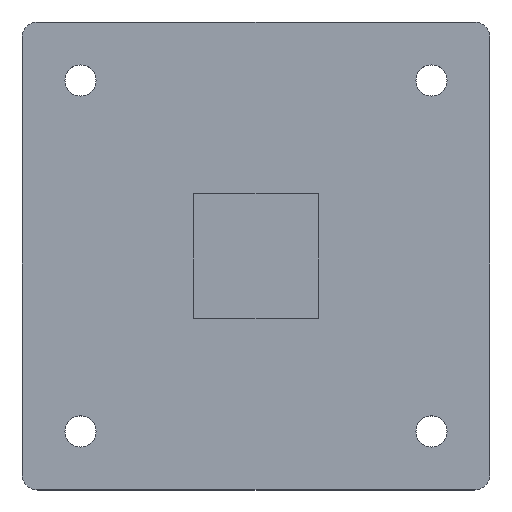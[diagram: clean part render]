
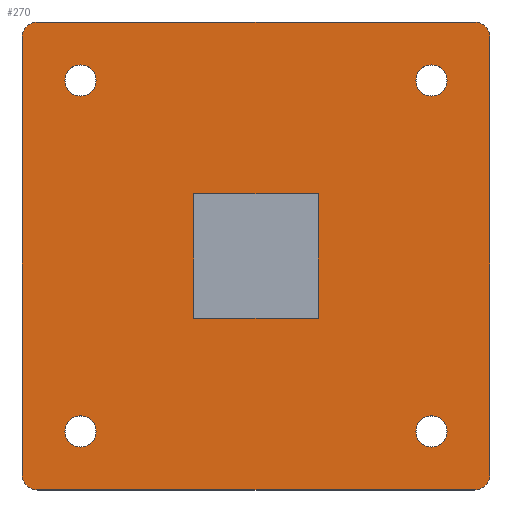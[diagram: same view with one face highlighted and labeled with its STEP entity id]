
A CAD part, top view. The second image highlights one B-rep face of the part: STEP entity #270.
In plain terms, the highlighted planar face has unit normal (0, 0, 1).
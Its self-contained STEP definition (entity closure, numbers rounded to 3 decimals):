
#200 = VERTEX_POINT( '', #568 );
#208 = VERTEX_POINT( '', #576 );
#212 = VERTEX_POINT( '', #580 );
#224 = EDGE_CURVE( '', #262, #386, #593, .T. );
#256 = EDGE_CURVE( '', #296, #262, #628, .T. );
#262 = VERTEX_POINT( '', #636 );
#270 = ADVANCED_FACE( '', ( #646, #647, #648, #649, #650, #651 ), #652, .T. );
#272 = EDGE_CURVE( '', #302, #296, #654, .T. );
#282 = EDGE_CURVE( '', #498, #208, #665, .T. );
#286 = EDGE_CURVE( '', #326, #302, #669, .T. );
#288 = VERTEX_POINT( '', #671 );
#296 = VERTEX_POINT( '', #680 );
#302 = VERTEX_POINT( '', #687 );
#308 = EDGE_CURVE( '', #338, #326, #694, .T. );
#314 = EDGE_CURVE( '', #288, #470, #700, .T. );
#326 = VERTEX_POINT( '', #713 );
#338 = VERTEX_POINT( '', #728 );
#340 = EDGE_CURVE( '', #366, #338, #730, .T. );
#354 = VERTEX_POINT( '', #745 );
#360 = EDGE_CURVE( '', #382, #366, #752, .T. );
#366 = VERTEX_POINT( '', #758 );
#376 = EDGE_CURVE( '', #386, #382, #768, .T. );
#382 = VERTEX_POINT( '', #775 );
#386 = VERTEX_POINT( '', #781 );
#394 = EDGE_CURVE( '', #500, #212, #791, .T. );
#396 = EDGE_CURVE( '', #470, #288, #793, .T. );
#414 = EDGE_CURVE( '', #208, #498, #818, .T. );
#416 = EDGE_CURVE( '', #530, #354, #820, .T. );
#418 = EDGE_CURVE( '', #354, #530, #822, .T. );
#430 = VERTEX_POINT( '', #835 );
#432 = EDGE_CURVE( '', #454, #430, #837, .T. );
#448 = EDGE_CURVE( '', #502, #454, #854, .T. );
#454 = VERTEX_POINT( '', #861 );
#470 = VERTEX_POINT( '', #879 );
#496 = EDGE_CURVE( '', #212, #500, #908, .T. );
#498 = VERTEX_POINT( '', #910 );
#500 = VERTEX_POINT( '', #912 );
#502 = VERTEX_POINT( '', #914 );
#504 = EDGE_CURVE( '', #200, #502, #916, .T. );
#530 = VERTEX_POINT( '', #945 );
#544 = EDGE_CURVE( '', #430, #200, #959, .T. );
#568 = CARTESIAN_POINT( '', ( -8., -8., 0. ) );
#576 = CARTESIAN_POINT( '', ( -20.5, 22.5, 0. ) );
#580 = CARTESIAN_POINT( '', ( 20.5, -22.5, 0. ) );
#593 = CIRCLE( '', #1009, 2. );
#628 = LINE( '', #1056, #1057 );
#636 = CARTESIAN_POINT( '', ( -28., -30., 0. ) );
#646 = FACE_BOUND( '', #1077, .T. );
#647 = FACE_OUTER_BOUND( '', #1078, .T. );
#648 = FACE_BOUND( '', #1079, .T. );
#649 = FACE_BOUND( '', #1080, .T. );
#650 = FACE_BOUND( '', #1081, .T. );
#651 = FACE_BOUND( '', #1082, .T. );
#652 = PLANE( '', #1083 );
#654 = CIRCLE( '', #1086, 2. );
#665 = CIRCLE( '', #1100, 2. );
#669 = LINE( '', #1107, #1108 );
#671 = CARTESIAN_POINT( '', ( 20.5, 22.5, 0. ) );
#680 = CARTESIAN_POINT( '', ( 28., -30., 0. ) );
#687 = CARTESIAN_POINT( '', ( 30., -28., 0. ) );
#694 = CIRCLE( '', #1140, 2. );
#700 = CIRCLE( '', #1147, 2. );
#713 = CARTESIAN_POINT( '', ( 30., 28., 0. ) );
#728 = CARTESIAN_POINT( '', ( 28., 30., 0. ) );
#730 = LINE( '', #1182, #1183 );
#745 = CARTESIAN_POINT( '', ( -24.5, -22.5, 0. ) );
#752 = CIRCLE( '', #1211, 2. );
#758 = CARTESIAN_POINT( '', ( -28., 30., 0. ) );
#768 = LINE( '', #1236, #1237 );
#775 = CARTESIAN_POINT( '', ( -30., 28., 0. ) );
#781 = CARTESIAN_POINT( '', ( -30., -28., 0. ) );
#791 = CIRCLE( '', #1263, 2. );
#793 = CIRCLE( '', #1266, 2. );
#818 = CIRCLE( '', #1293, 2. );
#820 = CIRCLE( '', #1296, 2. );
#822 = CIRCLE( '', #1299, 2. );
#835 = CARTESIAN_POINT( '', ( 8., -8., 0. ) );
#837 = LINE( '', #1319, #1320 );
#854 = LINE( '', #1344, #1345 );
#861 = CARTESIAN_POINT( '', ( 8., 8., 0. ) );
#879 = CARTESIAN_POINT( '', ( 24.5, 22.5, 0. ) );
#908 = CIRCLE( '', #1415, 2. );
#910 = CARTESIAN_POINT( '', ( -24.5, 22.5, 0. ) );
#912 = CARTESIAN_POINT( '', ( 24.5, -22.5, 0. ) );
#914 = CARTESIAN_POINT( '', ( -8., 8., 0. ) );
#916 = LINE( '', #1424, #1425 );
#945 = CARTESIAN_POINT( '', ( -20.5, -22.5, 0. ) );
#959 = LINE( '', #1488, #1489 );
#1009 = AXIS2_PLACEMENT_3D( '', #1521, #1522, #1523 );
#1056 = CARTESIAN_POINT( '', ( -28., -30., 0. ) );
#1057 = VECTOR( '', #1568, 1. );
#1077 = EDGE_LOOP( '', ( #1601, #1602, #1603, #1604 ) );
#1078 = EDGE_LOOP( '', ( #1605, #1606, #1607, #1608, #1609, #1610, #1611, #1612 ) );
#1079 = EDGE_LOOP( '', ( #1613, #1614 ) );
#1080 = EDGE_LOOP( '', ( #1615, #1616 ) );
#1081 = EDGE_LOOP( '', ( #1617, #1618 ) );
#1082 = EDGE_LOOP( '', ( #1619, #1620 ) );
#1083 = AXIS2_PLACEMENT_3D( '', #1621, #1622, #1623 );
#1086 = AXIS2_PLACEMENT_3D( '', #1624, #1625, #1626 );
#1100 = AXIS2_PLACEMENT_3D( '', #1641, #1642, #1643 );
#1107 = CARTESIAN_POINT( '', ( 30., -28., 0. ) );
#1108 = VECTOR( '', #1645, 1. );
#1140 = AXIS2_PLACEMENT_3D( '', #1673, #1674, #1675 );
#1147 = AXIS2_PLACEMENT_3D( '', #1676, #1677, #1678 );
#1182 = CARTESIAN_POINT( '', ( 28., 30., 0. ) );
#1183 = VECTOR( '', #1718, 1. );
#1211 = AXIS2_PLACEMENT_3D( '', #1740, #1741, #1742 );
#1236 = CARTESIAN_POINT( '', ( -30., 28., 0. ) );
#1237 = VECTOR( '', #1752, 1. );
#1263 = AXIS2_PLACEMENT_3D( '', #1788, #1789, #1790 );
#1266 = AXIS2_PLACEMENT_3D( '', #1791, #1792, #1793 );
#1293 = AXIS2_PLACEMENT_3D( '', #1827, #1828, #1829 );
#1296 = AXIS2_PLACEMENT_3D( '', #1830, #1831, #1832 );
#1299 = AXIS2_PLACEMENT_3D( '', #1833, #1834, #1835 );
#1319 = CARTESIAN_POINT( '', ( 8., 4., 0. ) );
#1320 = VECTOR( '', #1846, 1. );
#1344 = CARTESIAN_POINT( '', ( -4., 8., 0. ) );
#1345 = VECTOR( '', #1863, 1. );
#1415 = AXIS2_PLACEMENT_3D( '', #1924, #1925, #1926 );
#1424 = CARTESIAN_POINT( '', ( -8., -4., 0. ) );
#1425 = VECTOR( '', #1927, 1. );
#1488 = CARTESIAN_POINT( '', ( 4., -8., 0. ) );
#1489 = VECTOR( '', #1961, 1. );
#1521 = CARTESIAN_POINT( '', ( -28., -28., 0. ) );
#1522 = DIRECTION( '', ( 0., 0., -1. ) );
#1523 = DIRECTION( '', ( -1., 0., 0. ) );
#1568 = DIRECTION( '', ( -1., 0., 0. ) );
#1601 = ORIENTED_EDGE( '', *, *, #448, .T. );
#1602 = ORIENTED_EDGE( '', *, *, #432, .T. );
#1603 = ORIENTED_EDGE( '', *, *, #544, .T. );
#1604 = ORIENTED_EDGE( '', *, *, #504, .T. );
#1605 = ORIENTED_EDGE( '', *, *, #376, .F. );
#1606 = ORIENTED_EDGE( '', *, *, #224, .F. );
#1607 = ORIENTED_EDGE( '', *, *, #256, .F. );
#1608 = ORIENTED_EDGE( '', *, *, #272, .F. );
#1609 = ORIENTED_EDGE( '', *, *, #286, .F. );
#1610 = ORIENTED_EDGE( '', *, *, #308, .F. );
#1611 = ORIENTED_EDGE( '', *, *, #340, .F. );
#1612 = ORIENTED_EDGE( '', *, *, #360, .F. );
#1613 = ORIENTED_EDGE( '', *, *, #394, .F. );
#1614 = ORIENTED_EDGE( '', *, *, #496, .F. );
#1615 = ORIENTED_EDGE( '', *, *, #396, .F. );
#1616 = ORIENTED_EDGE( '', *, *, #314, .F. );
#1617 = ORIENTED_EDGE( '', *, *, #416, .F. );
#1618 = ORIENTED_EDGE( '', *, *, #418, .F. );
#1619 = ORIENTED_EDGE( '', *, *, #414, .F. );
#1620 = ORIENTED_EDGE( '', *, *, #282, .F. );
#1621 = CARTESIAN_POINT( '', ( 0., 0., 0. ) );
#1622 = DIRECTION( '', ( 0., 0., 1. ) );
#1623 = DIRECTION( '', ( 1., 0., 0. ) );
#1624 = CARTESIAN_POINT( '', ( 28., -28., 0. ) );
#1625 = DIRECTION( '', ( 0., 0., -1. ) );
#1626 = DIRECTION( '', ( 0., -1., 0. ) );
#1641 = CARTESIAN_POINT( '', ( -22.5, 22.5, 0. ) );
#1642 = DIRECTION( '', ( 0., 0., 1. ) );
#1643 = DIRECTION( '', ( 1., 0., 0. ) );
#1645 = DIRECTION( '', ( 0., -1., 0. ) );
#1673 = CARTESIAN_POINT( '', ( 28., 28., 0. ) );
#1674 = DIRECTION( '', ( 0., 0., -1. ) );
#1675 = DIRECTION( '', ( 1., 0., 0. ) );
#1676 = CARTESIAN_POINT( '', ( 22.5, 22.5, 0. ) );
#1677 = DIRECTION( '', ( 0., 0., 1. ) );
#1678 = DIRECTION( '', ( 1., 0., 0. ) );
#1718 = DIRECTION( '', ( 1., 0., 0. ) );
#1740 = CARTESIAN_POINT( '', ( -28., 28., 0. ) );
#1741 = DIRECTION( '', ( 0., 0., -1. ) );
#1742 = DIRECTION( '', ( 0., 1., 0. ) );
#1752 = DIRECTION( '', ( 0., 1., 0. ) );
#1788 = CARTESIAN_POINT( '', ( 22.5, -22.5, 0. ) );
#1789 = DIRECTION( '', ( 0., 0., 1. ) );
#1790 = DIRECTION( '', ( 1., 0., 0. ) );
#1791 = CARTESIAN_POINT( '', ( 22.5, 22.5, 0. ) );
#1792 = DIRECTION( '', ( 0., 0., 1. ) );
#1793 = DIRECTION( '', ( 1., 0., 0. ) );
#1827 = CARTESIAN_POINT( '', ( -22.5, 22.5, 0. ) );
#1828 = DIRECTION( '', ( 0., 0., 1. ) );
#1829 = DIRECTION( '', ( 1., 0., 0. ) );
#1830 = CARTESIAN_POINT( '', ( -22.5, -22.5, 0. ) );
#1831 = DIRECTION( '', ( 0., 0., 1. ) );
#1832 = DIRECTION( '', ( 1., 0., 0. ) );
#1833 = CARTESIAN_POINT( '', ( -22.5, -22.5, 0. ) );
#1834 = DIRECTION( '', ( 0., 0., 1. ) );
#1835 = DIRECTION( '', ( 1., 0., 0. ) );
#1846 = DIRECTION( '', ( 0., -1., 0. ) );
#1863 = DIRECTION( '', ( 1., 0., 0. ) );
#1924 = CARTESIAN_POINT( '', ( 22.5, -22.5, 0. ) );
#1925 = DIRECTION( '', ( 0., 0., 1. ) );
#1926 = DIRECTION( '', ( 1., 0., 0. ) );
#1927 = DIRECTION( '', ( 0., 1., 0. ) );
#1961 = DIRECTION( '', ( -1., 0., 0. ) );
